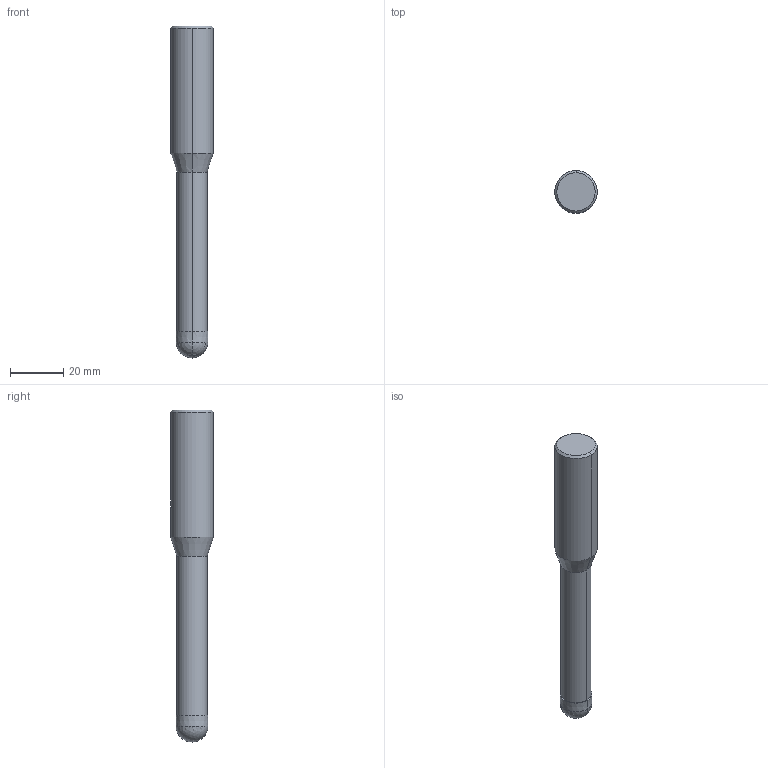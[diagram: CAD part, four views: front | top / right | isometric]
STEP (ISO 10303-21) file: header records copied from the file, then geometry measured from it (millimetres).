
FILE_DESCRIPTION(('no description'),'unknown implementation level');
FILE_NAME('solidJPBpOtHXjSPFrouhxKAat9zp71Y_1.STP',' ',('CIMSOURCE GmbH'),('CADClick - KiM GmbH - www.kimweb.de'),'unknown preprocess','ACIS','unknown authorization');
FILE_SCHEMA(('automotive_design'));
Length unit declared in the file: millimetre
Products named in the file (2): NOCUT; CUT
Bounding box: 16 x 16 x 125 mm (x, y, z)
Volume: 17704.6 mm3; surface area: 5672.1 mm2
Topology: 2 solids, 2 shells, 33 faces, 82 edges, 48 vertices
Faces by surface type: cylinder 12, cone 10, plane 9, sphere 2
Entity records: 2113 total; most frequent: CARTESIAN_POINT 441, DIRECTION 165, STYLED_ITEM 157, PRESENTATION_STYLE_ASSIGNMENT 157, COLOUR_RGB 157, ORIENTED_EDGE 148, EDGE_CURVE 74, CURVE_STYLE 74
